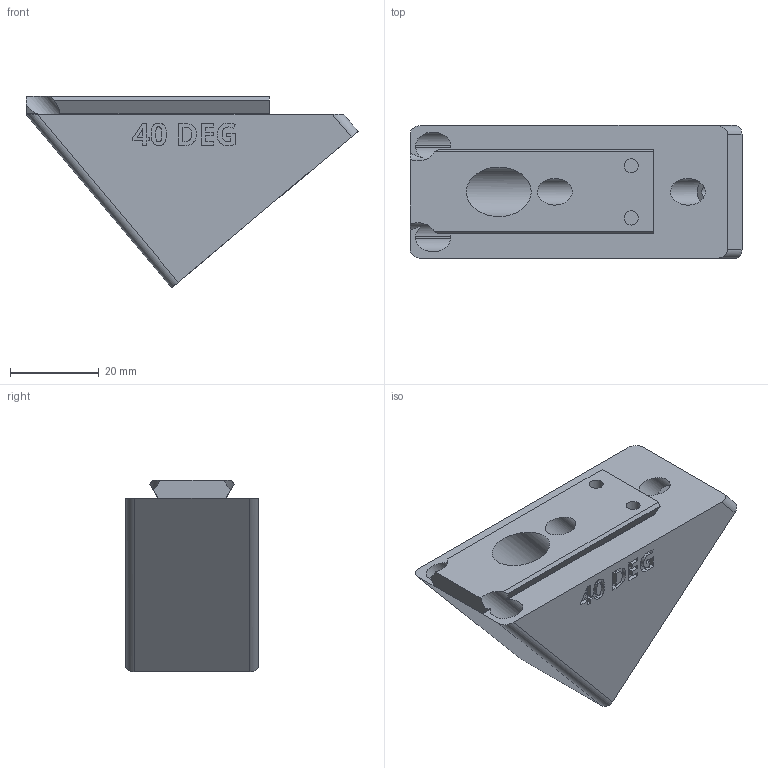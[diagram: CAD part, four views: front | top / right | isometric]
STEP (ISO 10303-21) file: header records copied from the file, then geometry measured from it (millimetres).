
FILE_DESCRIPTION(/* description */ ('STEP AP242 Edition 2','CAx-IF Rec.Pracs.---Representation and Presentation of Product Manufacturing Information (PMI)---4.0---2014-10-13','CAx-IF Rec.Pracs.---3D Tessellated Geometry---0.4---2014-09-14','2;1','CAx-IF Rec.Pracs.---User Defined Attributes---1.5---2016-08-15'),/* implementation_level */ '2;1');
FILE_NAME(/* name */ 'Camera Wedges - CAMERA MOUNTING WEDGE, POS, 40 DEG',/* time_stamp */ '2026-07-08T20:40:22Z',/* author */ (''),/* organization */ (''),/* preprocessor_version */ 'ST-DEVELOPER v20',/* originating_system */ 'ONSHAPE BY PTC INC, 1.217',/* authorisation */ ' ');
FILE_SCHEMA (('AP242_MANAGED_MODEL_BASED_3D_ENGINEERING_MIM_LF { 1 0 10303 442 3 1 4 }'));
Length unit declared in the file: metre
Products named in the file (1): CAMERA MOUNTING WEDGE, POS, 40 DEG
Bounding box: 75.01 x 30 x 43.28 mm (x, y, z)
Volume: 41424.7 mm3; surface area: 13458 mm2
Topology: 1 solids, 1 shells, 245 faces, 664 edges, 443 vertices
Faces by surface type: plane 143, bspline 60, cylinder 42
Full cylindrical faces by diameter (mm): 3.2 x4, 6 x2, 6.4 x1, 11.2 x1
Entity records: 7857 total; most frequent: CARTESIAN_POINT 1999, ORIENTED_EDGE 1306, DIRECTION 1001, EDGE_CURVE 653, VERTEX_POINT 440, LINE 437, VECTOR 437, EDGE_LOOP 285
